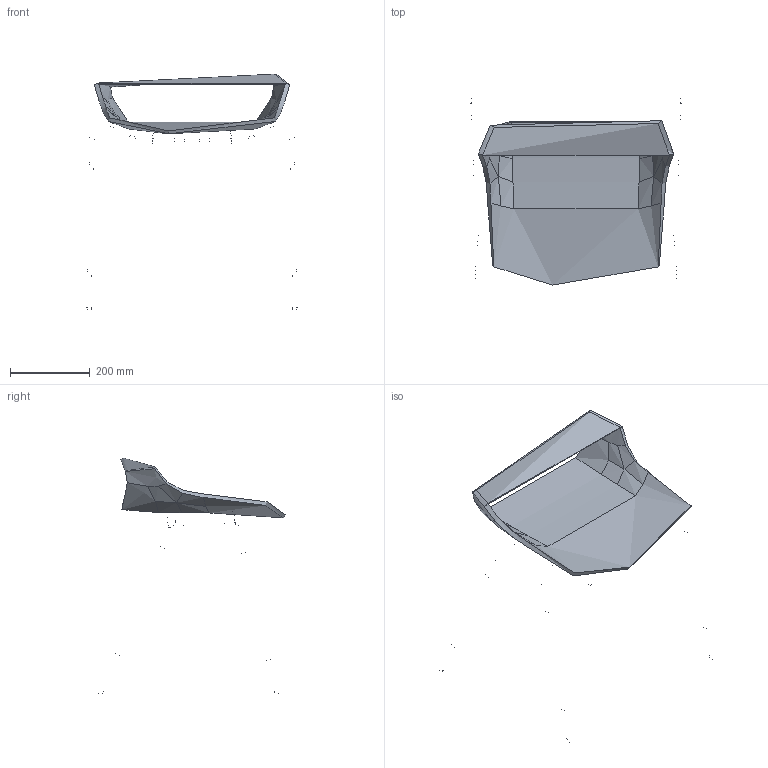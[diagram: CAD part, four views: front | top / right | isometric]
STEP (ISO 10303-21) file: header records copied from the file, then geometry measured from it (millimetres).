
FILE_DESCRIPTION(/* description */ (''),/* implementation_level */ '2;1');
FILE_NAME(/* name */ 'Lotus konf',/* time_stamp */ '2024-02-28T20:21:12+01:00',/* author */ (''),/* organization */ (''),/* preprocessor_version */ 'ST-DEVELOPER v16.5',/* originating_system */ 'Rhino 7.35',/* authorisation */ '');
FILE_SCHEMA (('CONFIG_CONTROL_DESIGN'));
Length unit declared in the file: millimetre
Products named in the file (1): Document
Bounding box: 530.54 x 467.92 x 591.15 mm (x, y, z)
Volume: 3540760.7 mm3; surface area: 848506.9 mm2
Topology: 2 solids, 24 shells, 106 faces, 249 edges, 154 vertices
Faces by surface type: bspline 64, cylinder 42
Full cylindrical faces by diameter (mm): 14 x12, 16 x4, 18 x18
Entity records: 14470 total; most frequent: CARTESIAN_POINT 12864, ORIENTED_EDGE 448, EDGE_CURVE 238, VERTEX_POINT 152, B_SPLINE_CURVE_WITH_KNOTS 129, ADVANCED_FACE 106, FACE_OUTER_BOUND 106, EDGE_LOOP 106
